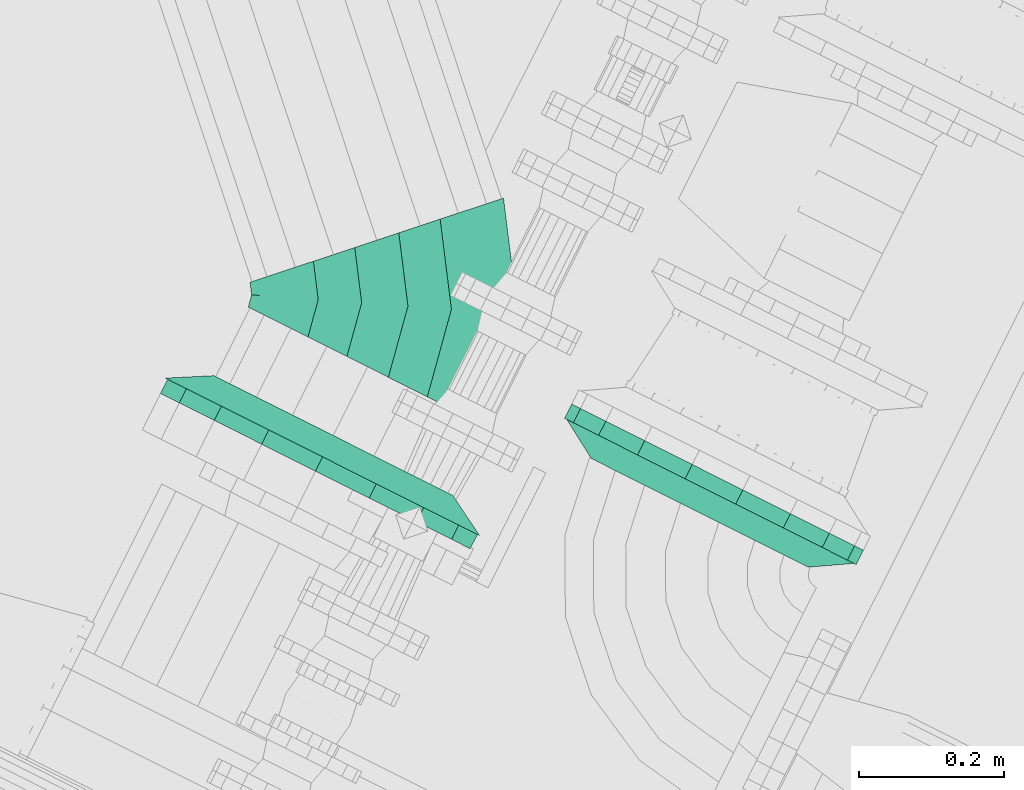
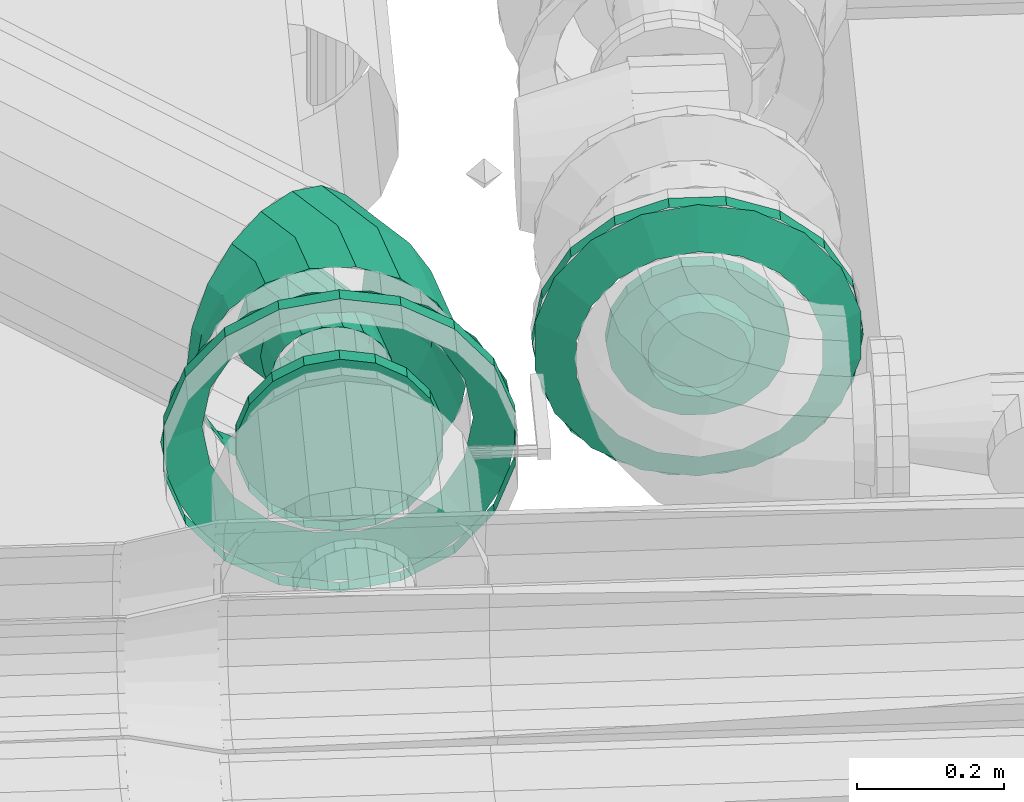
# One storey, part 66 of 206: 2 flow fittings, 1 flow segment.
"""IFC2X3 building model written with IfcOpenShell, lengths in metres."""

from ifc_helpers import new_model, si_unit, derived_unit, direction, frame, origin, place, context, subcontext, project, spatial, face_set, surface_model, source, transform, mapped, material, type_object, type_shapes, element, save


model = new_model("IFC2X3")

# Units and contexts
model_context = context("Model", 3, precision=5.2338327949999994e-05, world=origin(), true_north=direction((0.0, 1.0)))
body_context = subcontext(model_context, "Body", "Model", "MODEL_VIEW")
ifc_project = project(units=[si_unit("LENGTHUNIT", "METRE"), si_unit("AREAUNIT", "SQUARE_METRE"), si_unit("VOLUMEUNIT", "CUBIC_METRE"), si_unit("MASSUNIT", "GRAM", prefix="KILO"), si_unit("PLANEANGLEUNIT", "RADIAN"), derived_unit("THERMALTRANSMITTANCEUNIT", [(si_unit("MASSUNIT", "GRAM", prefix="KILO"), 1), (si_unit("THERMODYNAMICTEMPERATUREUNIT", "KELVIN"), -1), (si_unit("TIMEUNIT", "SECOND"), -3)])], contexts=[model_context])

# Site, building, storey
site_placement = place(None, frame((0.0, 0.0, 0.0), z_axis=(0.0, 0.0, 1.0), x_axis=(0.8939966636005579, -0.4480736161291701, 0.0)))
site = spatial("IfcSite", under=ifc_project, at=site_placement, Name="Default", CompositionType="ELEMENT")
building_placement = place(site_placement, origin())
building = spatial("IfcBuilding", under=site, at=building_placement, CompositionType="ELEMENT")
storey_placement = place(building_placement, origin())
storey = spatial("IfcBuildingStorey", under=building, at=storey_placement, Name="Erdgeschoss", CompositionType="ELEMENT", Elevation=0.0)

# Flow fitting
ifc_material_1 = material(Name="IfcSurfaceStyle #1741")
distribution_element_type_1 = type_object("IfcDistributionElementType", Name="Flansch 341016:Flansch 341016", material=ifc_material_1)
shared_shape_1 = source(origin(), body_context, "Body", "SurfaceModel", [
    surface_model("IfcFaceBasedSurfaceModel", [(25.314855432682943, 5.640961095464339, 2.354000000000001), (25.322393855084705, 5.640961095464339, 2.3112474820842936), (25.322393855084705, 5.618961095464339, 2.3112474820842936), (25.314855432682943, 5.618961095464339, 2.354000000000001), (25.344099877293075, 5.640961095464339, 2.2736515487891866), (25.344099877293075, 5.618961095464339, 2.2736515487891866), (25.377355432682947, 5.640961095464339, 2.245746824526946), (25.377355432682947, 5.618961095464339, 2.245746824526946), (25.418149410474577, 5.640961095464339, 2.230899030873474), (25.418149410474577, 5.618961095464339, 2.230899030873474), (25.461561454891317, 5.640961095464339, 2.2308990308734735), (25.461561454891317, 5.618961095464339, 2.2308990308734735), (25.502355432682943, 5.640961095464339, 2.245746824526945), (25.502355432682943, 5.618961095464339, 2.245746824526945), (25.535610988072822, 5.640961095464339, 2.2736515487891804), (25.535610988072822, 5.618961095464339, 2.2736515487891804), (25.557317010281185, 5.640961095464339, 2.31124748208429), (25.557317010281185, 5.618961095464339, 2.31124748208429), (25.564855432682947, 5.640961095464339, 2.353999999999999), (25.564855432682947, 5.618961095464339, 2.353999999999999), (25.557317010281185, 5.640961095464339, 2.3967525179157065), (25.557317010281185, 5.618961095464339, 2.3967525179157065), (25.535610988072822, 5.640961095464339, 2.434348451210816), (25.535610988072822, 5.618961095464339, 2.434348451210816), (25.502355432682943, 5.640961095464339, 2.462253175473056), (25.502355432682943, 5.618961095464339, 2.462253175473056), (25.461561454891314, 5.640961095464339, 2.477100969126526), (25.461561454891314, 5.618961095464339, 2.477100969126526), (25.418149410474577, 5.640961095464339, 2.477100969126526), (25.418149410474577, 5.618961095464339, 2.477100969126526), (25.377355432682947, 5.640961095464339, 2.4622531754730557), (25.377355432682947, 5.618961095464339, 2.4622531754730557), (25.344099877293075, 5.640961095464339, 2.4343484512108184), (25.344099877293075, 5.618961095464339, 2.4343484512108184), (25.322393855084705, 5.640961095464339, 2.3967525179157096), (25.322393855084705, 5.618961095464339, 2.3967525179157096), (25.43985543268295, 5.618961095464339, 2.353999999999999), (25.439855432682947, 5.618961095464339, 2.276000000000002), (25.466533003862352, 5.618961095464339, 2.2807039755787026), (25.463745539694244, 5.585961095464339, 2.2883624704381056), (25.43985543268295, 5.585961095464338, 2.2841500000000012), (25.489992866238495, 5.618961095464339, 2.294248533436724), (25.48475414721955, 5.585961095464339, 2.300491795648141), (25.507405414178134, 5.618961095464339, 2.3150000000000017), (25.500347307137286, 5.585961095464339, 2.3190750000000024), (25.516670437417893, 5.61896109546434, 2.340455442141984), (25.50864425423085, 5.585961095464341, 2.34187067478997), (25.516670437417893, 5.618961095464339, 2.3675445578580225), (25.50864425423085, 5.585961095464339, 2.366129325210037), (25.507405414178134, 5.618961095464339, 2.3930000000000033), (25.500347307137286, 5.585961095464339, 2.388925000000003), (25.48999286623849, 5.618961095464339, 2.413751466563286), (25.484754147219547, 5.585961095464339, 2.407508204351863), (25.466533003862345, 5.618961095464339, 2.4272960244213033), (25.46374553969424, 5.585961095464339, 2.419637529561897), (25.43985543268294, 5.618961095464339, 2.432000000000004), (25.43985543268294, 5.585961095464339, 2.4238500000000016), (25.41317786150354, 5.618961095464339, 2.4272960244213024), (25.415965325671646, 5.585961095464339, 2.4196375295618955), (25.389717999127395, 5.618961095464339, 2.4137514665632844), (25.39495671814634, 5.585961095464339, 2.4075082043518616), (25.372305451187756, 5.618961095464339, 2.3930000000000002), (25.379363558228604, 5.585961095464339, 2.3889250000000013), (25.363040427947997, 5.61896109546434, 2.367544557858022), (25.371066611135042, 5.585961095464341, 2.366129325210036), (25.36304042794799, 5.618961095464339, 2.340455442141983), (25.371066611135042, 5.585961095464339, 2.341870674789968), (25.372305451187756, 5.618961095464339, 2.3150000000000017), (25.379363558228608, 5.585961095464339, 2.3190750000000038), (25.3897179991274, 5.618961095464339, 2.294248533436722), (25.394956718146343, 5.585961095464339, 2.3004917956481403), (25.41317786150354, 5.618961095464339, 2.2807039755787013), (25.41596532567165, 5.585961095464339, 2.2883624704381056), (25.214855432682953, 5.640961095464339, 2.3540000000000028), (25.22842459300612, 5.640961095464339, 2.2770454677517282), (25.22842459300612, 5.618961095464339, 2.277045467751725), (25.214855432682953, 5.618961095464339, 2.354000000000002), (25.26749543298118, 5.640961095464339, 2.2093727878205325), (25.26749543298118, 5.618961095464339, 2.2093727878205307), (25.327355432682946, 5.640961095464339, 2.1591442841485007), (25.327355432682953, 5.618961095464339, 2.1591442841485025), (25.400784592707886, 5.640961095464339, 2.1324182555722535), (25.40078459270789, 5.618961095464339, 2.132418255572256), (25.478926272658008, 5.640961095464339, 2.132418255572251), (25.47892627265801, 5.618961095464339, 2.1324182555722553), (25.552355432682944, 5.640961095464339, 2.1591442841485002), (25.552355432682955, 5.618961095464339, 2.1591442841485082), (25.612215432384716, 5.640961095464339, 2.2093727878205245), (25.61221543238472, 5.618961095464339, 2.2093727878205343), (25.651286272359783, 5.640961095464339, 2.2770454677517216), (25.65128627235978, 5.618961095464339, 2.2770454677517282), (25.664855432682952, 5.640961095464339, 2.353999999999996), (25.664855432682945, 5.618961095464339, 2.3540000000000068), (25.65128627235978, 5.640961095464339, 2.4309545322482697), (25.651286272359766, 5.618961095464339, 2.4309545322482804), (25.612215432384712, 5.640961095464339, 2.4986272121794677), (25.61221543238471, 5.618961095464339, 2.498627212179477), (25.552355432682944, 5.640961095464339, 2.5488557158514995), (25.552355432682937, 5.618961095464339, 2.5488557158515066), (25.478926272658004, 5.640961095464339, 2.575581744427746), (25.478926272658, 5.618961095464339, 2.5755817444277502), (25.400784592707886, 5.640961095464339, 2.5755817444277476), (25.40078459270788, 5.618961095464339, 2.5755817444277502), (25.327355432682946, 5.640961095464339, 2.548855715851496), (25.327355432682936, 5.618961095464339, 2.548855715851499), (25.267495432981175, 5.640961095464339, 2.4986272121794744), (25.26749543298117, 5.618961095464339, 2.4986272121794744), (25.22842459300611, 5.640961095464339, 2.4309545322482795), (25.22842459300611, 5.618961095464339, 2.4309545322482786), (25.439855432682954, 5.618961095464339, 2.129000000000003), (25.516809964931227, 5.618961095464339, 2.142569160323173), (25.497947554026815, 5.585961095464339, 2.1943932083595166), (25.43985543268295, 5.585961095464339, 2.1841500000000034), (25.584482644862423, 5.618961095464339, 2.181640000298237), (25.549032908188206, 5.585961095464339, 2.223887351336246), (25.63471114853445, 5.618961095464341, 2.241500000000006), (25.586949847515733, 5.5859610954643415, 2.2690750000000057), (25.66143717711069, 5.618961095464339, 2.314929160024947), (25.607125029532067, 5.585961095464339, 2.324505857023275), (25.66143717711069, 5.618961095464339, 2.393070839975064), (25.607125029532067, 5.585961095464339, 2.383494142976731), (25.63471114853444, 5.618961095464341, 2.4665000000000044), (25.58694984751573, 5.5859610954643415, 2.438925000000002), (25.58448264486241, 5.61896109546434, 2.526359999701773), (25.5490329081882, 5.585961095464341, 2.484112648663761), (25.516809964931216, 5.618961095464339, 2.565430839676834), (25.497947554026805, 5.585961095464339, 2.5136067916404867), (25.439855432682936, 5.61896109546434, 2.5790000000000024), (25.439855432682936, 5.585961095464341, 2.5238500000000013), (25.362900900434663, 5.618961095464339, 2.5654308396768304), (25.38176331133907, 5.585961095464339, 2.513606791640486), (25.295228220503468, 5.61896109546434, 2.5263599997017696), (25.330677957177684, 5.585961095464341, 2.4841126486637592), (25.244999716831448, 5.61896109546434, 2.4665000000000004), (25.292761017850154, 5.585961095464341, 2.4389249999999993), (25.218273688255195, 5.618961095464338, 2.3930708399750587), (25.272585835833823, 5.585961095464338, 2.383494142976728), (25.218273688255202, 5.61896109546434, 2.3149291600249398), (25.272585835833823, 5.585961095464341, 2.324505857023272), (25.24499971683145, 5.618961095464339, 2.2415000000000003), (25.292761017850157, 5.585961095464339, 2.269075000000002), (25.295228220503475, 5.61896109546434, 2.181640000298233), (25.33067795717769, 5.585961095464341, 2.2238873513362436), (25.362900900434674, 5.61896109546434, 2.1425691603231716), (25.381763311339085, 5.585961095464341, 2.1943932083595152)], [face_set([[[0, 1, 2, 3]], [[1, 4, 5, 2]], [[4, 6, 7, 5]], [[6, 8, 9, 7]], [[8, 10, 11, 9]], [[10, 12, 13, 11]], [[12, 14, 15, 13]], [[14, 16, 17, 15]], [[16, 18, 19, 17]], [[18, 20, 21, 19]], [[20, 22, 23, 21]], [[22, 24, 25, 23]], [[24, 26, 27, 25]], [[26, 28, 29, 27]], [[28, 30, 31, 29]], [[30, 32, 33, 31]], [[32, 34, 35, 33]], [[34, 0, 3, 35]], [[36, 35, 3]], [[36, 33, 35]], [[36, 31, 33]], [[36, 29, 31]], [[36, 27, 29]], [[36, 25, 27]], [[36, 23, 25]], [[36, 21, 23]], [[36, 19, 21]], [[36, 17, 19]], [[36, 15, 17]], [[36, 13, 15]], [[36, 11, 13]], [[36, 9, 11]], [[36, 7, 9]], [[36, 5, 7]], [[36, 2, 5]], [[36, 3, 2]], [[37, 38, 39, 40]], [[38, 41, 42, 39]], [[41, 43, 44, 42]], [[43, 45, 46, 44]], [[45, 47, 48, 46]], [[47, 49, 50, 48]], [[49, 51, 52, 50]], [[51, 53, 54, 52]], [[53, 55, 56, 54]], [[55, 57, 58, 56]], [[57, 59, 60, 58]], [[59, 61, 62, 60]], [[61, 63, 64, 62]], [[63, 65, 66, 64]], [[65, 67, 68, 66]], [[67, 69, 70, 68]], [[69, 71, 72, 70]], [[71, 37, 40, 72]], [[73, 74, 75, 76]], [[74, 77, 78, 75]], [[77, 79, 80, 78]], [[79, 81, 82, 80]], [[81, 83, 84, 82]], [[83, 85, 86, 84]], [[85, 87, 88, 86]], [[87, 89, 90, 88]], [[89, 91, 92, 90]], [[91, 93, 94, 92]], [[93, 95, 96, 94]], [[95, 97, 98, 96]], [[97, 99, 100, 98]], [[99, 101, 102, 100]], [[101, 103, 104, 102]], [[103, 105, 106, 104]], [[105, 107, 108, 106]], [[107, 73, 76, 108]], [[109, 110, 111, 112]], [[110, 113, 114, 111]], [[113, 115, 116, 114]], [[115, 117, 118, 116]], [[117, 119, 120, 118]], [[119, 121, 122, 120]], [[121, 123, 124, 122]], [[123, 125, 126, 124]], [[125, 127, 128, 126]], [[127, 129, 130, 128]], [[129, 131, 132, 130]], [[131, 133, 134, 132]], [[133, 135, 136, 134]], [[135, 137, 138, 136]], [[137, 139, 140, 138]], [[139, 141, 142, 140]], [[141, 143, 144, 142]], [[143, 109, 112, 144]]])]),
])
type_shapes(distribution_element_type_1, [shared_shape_1])
flow_fitting_1_placement = place(storey_placement, origin())
element("IfcFlowFitting", 1, at=flow_fitting_1_placement, inside=storey, type_object=distribution_element_type_1, material=ifc_material_1, Name="Flansch", ObjectType="Flansch", context=body_context, shape_type="MappedRepresentation", body=[
    mapped(shared_shape_1, transform((0.0, 0.0, 0.0), scale=1.0)),
])

# Flow segment
ifc_material_2 = material(Name="IfcSurfaceStyle #9317")
distribution_element_type_2 = type_object("IfcDistributionElementType", Name="Rohrbogen 341748:Rohrbogen 341748", material=ifc_material_2)
shared_shape_2 = source(origin(), body_context, "Body", "SurfaceModel", [
    surface_model("IfcFaceBasedSurfaceModel", [(25.024548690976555, 5.560674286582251, 2.354), (25.01947382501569, 5.560674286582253, 2.3252190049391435), (24.996023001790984, 5.678569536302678, 2.3252190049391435), (25.000711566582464, 5.680511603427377, 2.354000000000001), (24.929240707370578, 5.778516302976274, 2.325219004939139), (24.932829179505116, 5.782104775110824, 2.3539999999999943), (25.004861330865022, 5.560674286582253, 2.2999094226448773), (24.982522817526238, 5.672977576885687, 2.2999094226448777), (24.918908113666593, 5.768183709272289, 2.2999094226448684), (24.982473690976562, 5.560674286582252, 2.281123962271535), (24.961839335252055, 5.664410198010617, 2.2811239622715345), (24.9030776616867, 5.752353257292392, 2.281123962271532), (24.95501118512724, 5.560674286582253, 2.271128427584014), (24.9364672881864, 5.653900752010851, 2.271128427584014), (24.883658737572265, 5.73293433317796, 2.27112842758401), (24.92578619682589, 5.560674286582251, 2.2711284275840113), (24.909466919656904, 5.642716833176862, 2.2711284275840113), (24.862993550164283, 5.712269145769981, 2.271128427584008), (24.89832369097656, 5.560674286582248, 2.281123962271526), (24.884094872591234, 5.63220738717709, 2.2811239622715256), (24.843574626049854, 5.692850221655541, 2.281123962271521), (24.8759360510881, 5.560674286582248, 2.299909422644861), (24.863411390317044, 5.623640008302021, 2.29990942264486), (24.827744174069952, 5.67701976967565, 2.299909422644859), (24.86132355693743, 5.560674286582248, 2.3252190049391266), (24.8499112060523, 5.618048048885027, 2.325219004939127), (24.81741158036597, 5.666687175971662, 2.325219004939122), (24.856248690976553, 5.560674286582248, 2.3539999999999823), (24.845222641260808, 5.6161059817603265, 2.3539999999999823), (24.81382310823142, 5.663098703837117, 2.3539999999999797), (24.861323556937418, 5.5606742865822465, 2.382780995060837), (24.84991120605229, 5.618048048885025, 2.382780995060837), (24.81741158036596, 5.666687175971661, 2.382780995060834), (24.875936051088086, 5.5606742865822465, 2.4080905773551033), (24.863411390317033, 5.62364000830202, 2.4080905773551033), (24.827744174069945, 5.677019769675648, 2.408090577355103), (24.898323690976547, 5.5606742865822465, 2.4268760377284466), (24.88409487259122, 5.632207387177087, 2.4268760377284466), (24.84357462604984, 5.69285022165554, 2.426876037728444), (24.92578619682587, 5.560674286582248, 2.436871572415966), (24.909466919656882, 5.642716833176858, 2.4368715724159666), (24.862993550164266, 5.7122691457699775, 2.436871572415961), (24.95501118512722, 5.560674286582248, 2.4368715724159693), (24.93646728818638, 5.653900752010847, 2.4368715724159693), (24.883658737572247, 5.7329343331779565, 2.4368715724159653), (24.982473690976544, 5.560674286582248, 2.426876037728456), (24.96183933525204, 5.6644101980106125, 2.426876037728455), (24.903077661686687, 5.752353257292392, 2.4268760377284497), (25.00486133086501, 5.560674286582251, 2.408090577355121), (24.982522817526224, 5.6729775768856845, 2.4080905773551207), (24.918908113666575, 5.768183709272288, 2.408090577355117), (25.019473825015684, 5.560674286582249, 2.3827809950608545), (24.996023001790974, 5.678569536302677, 2.3827809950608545), (24.929240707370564, 5.778516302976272, 2.3827809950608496), (25.124548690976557, 5.560674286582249, 2.3540000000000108), (25.11344308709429, 5.560674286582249, 2.291016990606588), (25.082839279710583, 5.714530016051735, 2.291016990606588), (25.093099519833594, 5.718779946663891, 2.3540000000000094), (24.99568700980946, 5.844962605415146, 2.2910169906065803), (25.003539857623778, 5.852815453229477, 2.354000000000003), (25.081465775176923, 5.560674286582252, 2.2356306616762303), (25.05329609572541, 5.702292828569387, 2.23563066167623), (24.973075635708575, 5.822351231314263, 2.2356306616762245), (25.032473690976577, 5.560674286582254, 2.1945214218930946), (25.00803331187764, 5.683544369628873, 2.194521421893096), (24.938433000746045, 5.787708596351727, 2.194521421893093), (24.972376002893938, 5.560674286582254, 2.1726476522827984), (24.952510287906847, 5.660545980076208, 2.1726476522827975), (24.89593751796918, 5.74521311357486, 2.1726476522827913), (24.908421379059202, 5.560674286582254, 2.17264765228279), (24.893423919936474, 5.636071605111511, 2.1726476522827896), (24.8507147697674, 5.699990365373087, 2.172647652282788), (24.848323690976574, 5.560674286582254, 2.1945214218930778), (24.83790089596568, 5.613073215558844, 2.1945214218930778), (24.80821928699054, 5.6574948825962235, 2.1945214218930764), (24.799331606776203, 5.560674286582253, 2.235630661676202), (24.792638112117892, 5.59432475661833, 2.235630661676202), (24.773576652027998, 5.6228522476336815, 2.2356306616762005), (24.767354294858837, 5.560674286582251, 2.2910169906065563), (24.763094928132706, 5.5820875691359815, 2.2910169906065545), (24.7509652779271, 5.600240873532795, 2.291016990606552), (24.75624869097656, 5.560674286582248, 2.3539999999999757), (24.75283468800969, 5.577837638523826, 2.353999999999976), (24.743112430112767, 5.592388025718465, 2.3539999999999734), (24.76735429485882, 5.560674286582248, 2.416983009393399), (24.763094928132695, 5.582087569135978, 2.416983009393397), (24.750965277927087, 5.600240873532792, 2.4169830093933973), (24.799331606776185, 5.560674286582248, 2.4723693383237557), (24.79263811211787, 5.594324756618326, 2.472369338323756), (24.773576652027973, 5.622852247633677, 2.4723693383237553), (24.848323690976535, 5.560674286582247, 2.513478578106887), (24.837900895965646, 5.613073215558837, 2.513478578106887), (24.808219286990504, 5.6574948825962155, 2.5134785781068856), (24.908421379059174, 5.560674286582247, 2.5353523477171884), (24.893423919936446, 5.636071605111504, 2.535352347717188), (24.850714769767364, 5.699990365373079, 2.5353523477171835), (24.972376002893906, 5.560674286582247, 2.5353523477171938), (24.95251028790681, 5.6605459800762, 2.535352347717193), (24.895937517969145, 5.745213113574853, 2.5353523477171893), (25.03247369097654, 5.560674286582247, 2.513478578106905), (25.008033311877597, 5.6835443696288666, 2.5134785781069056), (24.938433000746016, 5.787708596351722, 2.513478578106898), (25.081465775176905, 5.560674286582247, 2.4723693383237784), (25.05329609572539, 5.702292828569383, 2.4723693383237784), (24.973075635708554, 5.82235123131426, 2.472369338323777), (25.11344308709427, 5.560674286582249, 2.416983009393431), (25.08283927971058, 5.714530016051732, 2.4169830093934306), (24.995687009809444, 5.8449626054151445, 2.416983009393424)], [face_set([[[0, 1, 2, 3]], [[3, 2, 4, 5]], [[1, 6, 7, 2]], [[2, 7, 8, 4]], [[6, 9, 10, 7]], [[7, 10, 11, 8]], [[9, 12, 13, 10]], [[10, 13, 14, 11]], [[12, 15, 16, 13]], [[13, 16, 17, 14]], [[15, 18, 19, 16]], [[16, 19, 20, 17]], [[18, 21, 22, 19]], [[19, 22, 23, 20]], [[21, 24, 25, 22]], [[22, 25, 26, 23]], [[24, 27, 28, 25]], [[25, 28, 29, 26]], [[27, 30, 31, 28]], [[28, 31, 32, 29]], [[30, 33, 34, 31]], [[31, 34, 35, 32]], [[33, 36, 37, 34]], [[34, 37, 38, 35]], [[36, 39, 40, 37]], [[37, 40, 41, 38]], [[39, 42, 43, 40]], [[40, 43, 44, 41]], [[42, 45, 46, 43]], [[43, 46, 47, 44]], [[45, 48, 49, 46]], [[46, 49, 50, 47]], [[48, 51, 52, 49]], [[49, 52, 53, 50]], [[51, 0, 3, 52]], [[52, 3, 5, 53]], [[54, 55, 56, 57]], [[57, 56, 58, 59]], [[55, 60, 61, 56]], [[56, 61, 62, 58]], [[60, 63, 64, 61]], [[61, 64, 65, 62]], [[63, 66, 67, 64]], [[64, 67, 68, 65]], [[66, 69, 70, 67]], [[67, 70, 71, 68]], [[69, 72, 73, 70]], [[70, 73, 74, 71]], [[72, 75, 76, 73]], [[73, 76, 77, 74]], [[75, 78, 79, 76]], [[76, 79, 80, 77]], [[78, 81, 82, 79]], [[79, 82, 83, 80]], [[81, 84, 85, 82]], [[82, 85, 86, 83]], [[84, 87, 88, 85]], [[85, 88, 89, 86]], [[87, 90, 91, 88]], [[88, 91, 92, 89]], [[90, 93, 94, 91]], [[91, 94, 95, 92]], [[93, 96, 97, 94]], [[94, 97, 98, 95]], [[96, 99, 100, 97]], [[97, 100, 101, 98]], [[99, 102, 103, 100]], [[100, 103, 104, 101]], [[102, 105, 106, 103]], [[103, 106, 107, 104]], [[105, 54, 57, 106]], [[106, 57, 59, 107]]])]),
])
type_shapes(distribution_element_type_2, [shared_shape_2])
flow_segment_placement = place(storey_placement, origin())
element("IfcFlowSegment", 2, at=flow_segment_placement, inside=storey, type_object=distribution_element_type_2, material=ifc_material_2, Name="Rohrbogen", ObjectType="Rohrbogen", context=body_context, shape_type="MappedRepresentation", body=[
    mapped(shared_shape_2, transform((0.0, 0.0, 0.0), scale=1.0)),
])

# Flow fitting
distribution_element_type_3 = type_object("IfcDistributionElementType", Name="Flansch 343029:Flansch 343029", material=ifc_material_2)
shared_shape_3 = source(origin(), body_context, "Body", "SurfaceModel", [
    surface_model("IfcFaceBasedSurfaceModel", [(24.856248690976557, 5.454912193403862, 2.3540000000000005), (24.86132355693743, 5.454912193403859, 2.3252190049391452), (24.85394696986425, 5.421912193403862, 2.3225341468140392), (24.84839869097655, 5.421912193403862, 2.354), (24.87593605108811, 5.454912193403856, 2.299909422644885), (24.869922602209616, 5.421912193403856, 2.2948635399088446), (24.898323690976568, 5.45491219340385, 2.281123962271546), (24.894398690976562, 5.421912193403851, 2.274325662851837), (24.9257861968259, 5.454912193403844, 2.2711284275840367), (24.92442305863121, 5.421912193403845, 2.263397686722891), (24.955011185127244, 5.454912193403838, 2.2711284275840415), (24.956374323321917, 5.421912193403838, 2.2633976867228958), (24.98247369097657, 5.454912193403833, 2.2811239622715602), (24.986398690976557, 5.4219121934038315, 2.2743256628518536), (25.004861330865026, 5.454912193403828, 2.299909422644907), (25.010874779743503, 5.421912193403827, 2.29486353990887), (25.0194738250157, 5.454912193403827, 2.3252190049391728), (25.026850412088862, 5.421912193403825, 2.322534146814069), (25.02454869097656, 5.4549121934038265, 2.354000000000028), (25.032398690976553, 5.421912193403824, 2.3540000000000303), (25.01947382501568, 5.4549121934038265, 2.3827809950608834), (25.026850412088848, 5.421912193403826, 2.385465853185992), (25.00486133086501, 5.454912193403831, 2.408090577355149), (25.01087477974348, 5.42191219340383, 2.41313646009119), (24.982473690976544, 5.4549121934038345, 2.426876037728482), (24.986398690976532, 5.421912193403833, 2.4336743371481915), (24.95501118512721, 5.454912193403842, 2.436871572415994), (24.956374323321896, 5.42191219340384, 2.444602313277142), (24.925786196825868, 5.454912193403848, 2.436871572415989), (24.924423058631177, 5.4219121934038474, 2.4446023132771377), (24.898323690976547, 5.454912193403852, 2.4268760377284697), (24.894398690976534, 5.421912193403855, 2.433674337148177), (24.875936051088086, 5.4549121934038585, 2.408090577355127), (24.869922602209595, 5.421912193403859, 2.4131364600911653), (24.86132355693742, 5.454912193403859, 2.382780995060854), (24.85394696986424, 5.421912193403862, 2.3854658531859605), (24.940398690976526, 5.421912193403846, 2.496500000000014), (24.891660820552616, 5.421912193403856, 2.487906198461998), (24.891660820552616, 5.399912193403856, 2.4879061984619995), (24.94039869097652, 5.399912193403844, 2.4965000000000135), (24.8488014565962, 5.421912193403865, 2.4631613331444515), (24.848801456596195, 5.399912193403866, 2.463161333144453), (24.816990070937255, 5.421912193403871, 2.4252499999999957), (24.816990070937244, 5.39991219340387, 2.4252499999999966), (24.800063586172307, 5.421912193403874, 2.3787448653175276), (24.8000635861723, 5.399912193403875, 2.378744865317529), (24.80006358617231, 5.421912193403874, 2.3292551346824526), (24.800063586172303, 5.399912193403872, 2.3292551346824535), (24.816990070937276, 5.42191219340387, 2.2827499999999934), (24.816990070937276, 5.39991219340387, 2.2827499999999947), (24.848801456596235, 5.421912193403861, 2.2448386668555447), (24.848801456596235, 5.399912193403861, 2.244838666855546), (24.89166082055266, 5.421912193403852, 2.220093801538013), (24.89166082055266, 5.399912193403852, 2.220093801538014), (24.94039869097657, 5.421912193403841, 2.2115000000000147), (24.94039869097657, 5.399912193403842, 2.2115000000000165), (24.98913656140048, 5.421912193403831, 2.220093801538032), (24.989136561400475, 5.39991219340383, 2.2200938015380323), (25.031995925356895, 5.42191219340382, 2.244838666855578), (25.031995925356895, 5.399912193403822, 2.244838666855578), (25.063807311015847, 5.4219121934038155, 2.2827500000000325), (25.063807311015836, 5.399912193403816, 2.2827500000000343), (25.080733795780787, 5.421912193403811, 2.3292551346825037), (25.080733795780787, 5.399912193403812, 2.3292551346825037), (25.080733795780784, 5.421912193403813, 2.3787448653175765), (25.080733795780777, 5.3999121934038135, 2.378744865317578), (25.06380731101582, 5.4219121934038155, 2.4252500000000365), (25.06380731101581, 5.399912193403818, 2.425250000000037), (25.031995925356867, 5.421912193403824, 2.463161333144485), (25.031995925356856, 5.399912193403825, 2.4631613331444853), (24.989136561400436, 5.421912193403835, 2.4879061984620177), (24.98913656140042, 5.399912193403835, 2.487906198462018), (24.940398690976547, 5.421912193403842, 2.3540000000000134), (24.756248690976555, 5.454912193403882, 2.3539999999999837), (24.76735429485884, 5.454912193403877, 2.291016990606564), (24.71252323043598, 5.421912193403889, 2.2710601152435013), (24.69789869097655, 5.421912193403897, 2.3539999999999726), (24.799331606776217, 5.454912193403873, 2.2356306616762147), (24.754632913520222, 5.421912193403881, 2.1981240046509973), (24.848323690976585, 5.454912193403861, 2.1945214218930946), (24.819148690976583, 5.421912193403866, 2.143988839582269), (24.90842137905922, 5.454912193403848, 2.172647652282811), (24.898289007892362, 5.4219121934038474, 2.115184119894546), (24.972376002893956, 5.454912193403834, 2.1726476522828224), (24.98250837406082, 5.42191219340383, 2.115184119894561), (25.03247369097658, 5.454912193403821, 2.1945214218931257), (25.06164869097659, 5.421912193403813, 2.143988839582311), (25.08146577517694, 5.454912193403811, 2.2356306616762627), (25.126164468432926, 5.4219121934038, 2.198124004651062), (25.113443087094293, 5.454912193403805, 2.291016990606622), (25.168274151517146, 5.421912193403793, 2.2710601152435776), (25.124548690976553, 5.4549121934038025, 2.3540000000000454), (25.182898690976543, 5.42191219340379, 2.3540000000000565), (25.11344308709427, 5.454912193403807, 2.416983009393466), (25.16827415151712, 5.421912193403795, 2.43693988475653), (25.081465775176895, 5.454912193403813, 2.4723693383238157), (25.126164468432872, 5.421912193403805, 2.509875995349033), (25.032473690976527, 5.454912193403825, 2.5134785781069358), (25.061648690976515, 5.421912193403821, 2.56401116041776), (24.972376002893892, 5.454912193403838, 2.535352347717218), (24.98250837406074, 5.421912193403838, 2.592815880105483), (24.90842137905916, 5.454912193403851, 2.5353523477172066), (24.898289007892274, 5.421912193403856, 2.5928158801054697), (24.84832369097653, 5.454912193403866, 2.5134785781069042), (24.81914869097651, 5.421912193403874, 2.5640111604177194), (24.799331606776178, 5.454912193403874, 2.4723693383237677), (24.754632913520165, 5.4219121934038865, 2.509875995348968), (24.767354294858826, 5.454912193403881, 2.416983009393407), (24.71252323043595, 5.421912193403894, 2.436939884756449), (24.940398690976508, 5.421912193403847, 2.5965000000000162), (24.85745880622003, 5.421912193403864, 2.581875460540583), (24.85745880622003, 5.399912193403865, 2.5818754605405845), (24.940398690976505, 5.399912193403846, 2.5965000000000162), (24.784522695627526, 5.421912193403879, 2.539765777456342), (24.784522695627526, 5.39991219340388, 2.539765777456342), (24.730387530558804, 5.42191219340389, 2.4752499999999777), (24.730387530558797, 5.399912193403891, 2.475249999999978), (24.701582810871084, 5.421912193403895, 2.396109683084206), (24.701582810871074, 5.399912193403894, 2.396109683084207), (24.7015828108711, 5.421912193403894, 2.311890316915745), (24.70158281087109, 5.399912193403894, 2.3118903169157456), (24.730387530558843, 5.4219121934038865, 2.23274999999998), (24.730387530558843, 5.399912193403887, 2.2327499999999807), (24.78452269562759, 5.421912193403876, 2.1682342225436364), (24.784522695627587, 5.399912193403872, 2.168234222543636), (24.85745880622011, 5.421912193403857, 2.1261245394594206), (24.857458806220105, 5.399912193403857, 2.1261245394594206), (24.940398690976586, 5.42191219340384, 2.1115000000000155), (24.940398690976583, 5.399912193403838, 2.1115000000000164), (25.02333857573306, 5.421912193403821, 2.126124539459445), (25.023338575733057, 5.3999121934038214, 2.1261245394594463), (25.096274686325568, 5.421912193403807, 2.168234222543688), (25.09627468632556, 5.399912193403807, 2.168234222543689), (25.150409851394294, 5.421912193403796, 2.2327500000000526), (25.150409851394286, 5.399912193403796, 2.2327500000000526), (25.17921457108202, 5.4219121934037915, 2.3118903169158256), (25.17921457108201, 5.39991219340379, 2.311890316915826), (25.179214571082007, 5.421912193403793, 2.3961096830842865), (25.179214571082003, 5.399912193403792, 2.396109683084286), (25.150409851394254, 5.421912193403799, 2.475250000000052), (25.150409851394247, 5.399912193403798, 2.4752500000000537), (25.0962746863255, 5.421912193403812, 2.5397657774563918), (25.0962746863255, 5.399912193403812, 2.5397657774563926), (25.023338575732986, 5.421912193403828, 2.581875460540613), (25.023338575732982, 5.399912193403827, 2.581875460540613)], [face_set([[[0, 1, 2, 3]], [[1, 4, 5, 2]], [[4, 6, 7, 5]], [[6, 8, 9, 7]], [[8, 10, 11, 9]], [[10, 12, 13, 11]], [[12, 14, 15, 13]], [[14, 16, 17, 15]], [[16, 18, 19, 17]], [[18, 20, 21, 19]], [[20, 22, 23, 21]], [[22, 24, 25, 23]], [[24, 26, 27, 25]], [[26, 28, 29, 27]], [[28, 30, 31, 29]], [[30, 32, 33, 31]], [[32, 34, 35, 33]], [[34, 0, 3, 35]], [[36, 37, 38, 39]], [[37, 40, 41, 38]], [[40, 42, 43, 41]], [[42, 44, 45, 43]], [[44, 46, 47, 45]], [[46, 48, 49, 47]], [[48, 50, 51, 49]], [[50, 52, 53, 51]], [[52, 54, 55, 53]], [[54, 56, 57, 55]], [[56, 58, 59, 57]], [[58, 60, 61, 59]], [[60, 62, 63, 61]], [[62, 64, 65, 63]], [[64, 66, 67, 65]], [[66, 68, 69, 67]], [[68, 70, 71, 69]], [[70, 36, 39, 71]], [[72, 37, 36]], [[72, 40, 37]], [[72, 42, 40]], [[72, 44, 42]], [[72, 46, 44]], [[72, 48, 46]], [[72, 50, 48]], [[72, 52, 50]], [[72, 54, 52]], [[72, 56, 54]], [[72, 58, 56]], [[72, 60, 58]], [[72, 62, 60]], [[72, 64, 62]], [[72, 66, 64]], [[72, 68, 66]], [[72, 70, 68]], [[72, 36, 70]], [[73, 74, 75, 76]], [[74, 77, 78, 75]], [[77, 79, 80, 78]], [[79, 81, 82, 80]], [[81, 83, 84, 82]], [[83, 85, 86, 84]], [[85, 87, 88, 86]], [[87, 89, 90, 88]], [[89, 91, 92, 90]], [[91, 93, 94, 92]], [[93, 95, 96, 94]], [[95, 97, 98, 96]], [[97, 99, 100, 98]], [[99, 101, 102, 100]], [[101, 103, 104, 102]], [[103, 105, 106, 104]], [[105, 107, 108, 106]], [[107, 73, 76, 108]], [[109, 110, 111, 112]], [[110, 113, 114, 111]], [[113, 115, 116, 114]], [[115, 117, 118, 116]], [[117, 119, 120, 118]], [[119, 121, 122, 120]], [[121, 123, 124, 122]], [[123, 125, 126, 124]], [[125, 127, 128, 126]], [[127, 129, 130, 128]], [[129, 131, 132, 130]], [[131, 133, 134, 132]], [[133, 135, 136, 134]], [[135, 137, 138, 136]], [[137, 139, 140, 138]], [[139, 141, 142, 140]], [[141, 143, 144, 142]], [[143, 109, 112, 144]]])]),
])
type_shapes(distribution_element_type_3, [shared_shape_3])
flow_fitting_2_placement = place(storey_placement, origin())
element("IfcFlowFitting", 3, at=flow_fitting_2_placement, inside=storey, type_object=distribution_element_type_3, material=ifc_material_2, Name="Flansch", ObjectType="Flansch", context=body_context, shape_type="MappedRepresentation", body=[
    mapped(shared_shape_3, transform((0.0, 0.0, 0.0), scale=1.0)),
])

save(model, "model.ifc")
